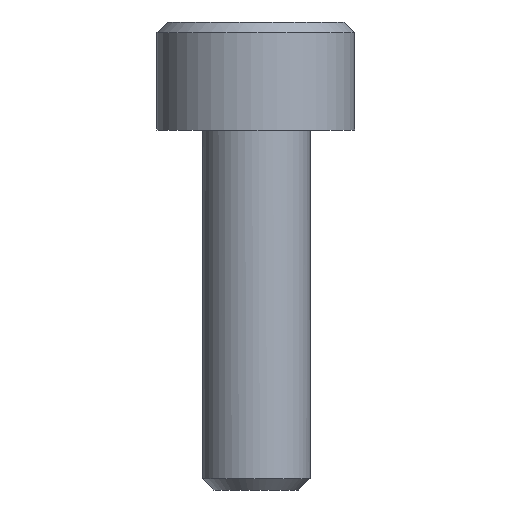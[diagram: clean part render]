
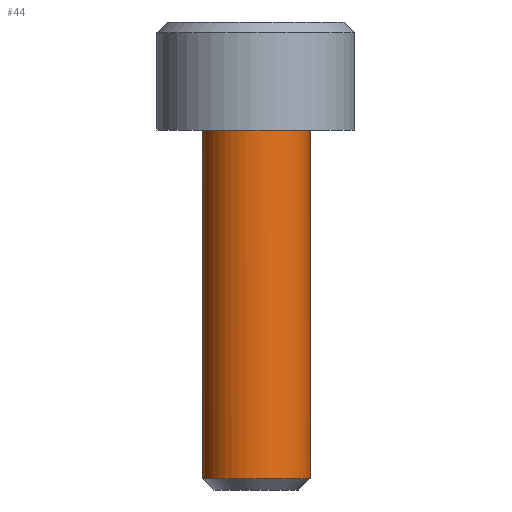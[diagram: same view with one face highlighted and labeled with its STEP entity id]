
A CAD part, front view. The second image highlights one B-rep face of the part: STEP entity #44.
In plain terms, the highlighted free-form (B-spline) face has degree [2, 1] with [9, 2] control points.
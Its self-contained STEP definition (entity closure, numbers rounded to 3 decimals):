
#44=ADVANCED_FACE('',(#69),#763,.T.);
#69=FACE_OUTER_BOUND('',#94,.T.);
#94=EDGE_LOOP('',(#127,#128,#129,#130));
#127=ORIENTED_EDGE('',*,*,#540,.T.);
#128=ORIENTED_EDGE('',*,*,#541,.T.);
#129=ORIENTED_EDGE('',*,*,#542,.T.);
#130=ORIENTED_EDGE('',*,*,#543,.T.);
#230=(
BOUNDED_CURVE()
B_SPLINE_CURVE(2,(#1137,#1138,#1139,#1140,#1141),.UNSPECIFIED.,.F.,.F.)
B_SPLINE_CURVE_WITH_KNOTS((3,2,3),(0.,2.356,4.712),
 .UNSPECIFIED.)
CURVE()
GEOMETRIC_REPRESENTATION_ITEM()
RATIONAL_B_SPLINE_CURVE((1.,0.707,1.,0.707,1.))
REPRESENTATION_ITEM('')
);
#231=(
BOUNDED_CURVE()
B_SPLINE_CURVE(2,(#1148,#1149,#1150,#1151,#1152),.UNSPECIFIED.,.F.,.F.)
B_SPLINE_CURVE_WITH_KNOTS((3,2,3),(-4.712,-2.356,0.),
 .UNSPECIFIED.)
CURVE()
GEOMETRIC_REPRESENTATION_ITEM()
RATIONAL_B_SPLINE_CURVE((1.,0.707,1.,0.707,1.))
REPRESENTATION_ITEM('')
);
#258=(
BOUNDED_CURVE()
B_SPLINE_CURVE(2,(#1441,#1442,#1443,#1444,#1445),.UNSPECIFIED.,.F.,.F.)
B_SPLINE_CURVE_WITH_KNOTS((3,2,3),(-4.712,-2.356,0.),
 .UNSPECIFIED.)
CURVE()
GEOMETRIC_REPRESENTATION_ITEM()
RATIONAL_B_SPLINE_CURVE((1.,0.707,1.,0.707,1.))
REPRESENTATION_ITEM('')
);
#271=PCURVE('',#763,#379);
#272=PCURVE('',#763,#380);
#273=PCURVE('',#763,#381);
#274=PCURVE('',#763,#382);
#278=PCURVE('',#764,#386);
#347=PCURVE('',#768,#455);
#349=PCURVE('',#768,#457);
#354=PCURVE('',#759,#462);
#379=DEFINITIONAL_REPRESENTATION('',(#600),#1499);
#380=DEFINITIONAL_REPRESENTATION('',(#601),#1499);
#381=DEFINITIONAL_REPRESENTATION('',(#603),#1499);
#382=DEFINITIONAL_REPRESENTATION('',(#604),#1499);
#386=DEFINITIONAL_REPRESENTATION('',(#610),#1499);
#455=DEFINITIONAL_REPRESENTATION('',(#695),#1499);
#457=DEFINITIONAL_REPRESENTATION('',(#697),#1499);
#462=DEFINITIONAL_REPRESENTATION('',(#258),#1499);
#486=SURFACE_CURVE('',#599,(#271,#347),.PCURVE_S1.);
#487=SURFACE_CURVE('',#230,(#272,#278),.PCURVE_S1.);
#488=SURFACE_CURVE('',#602,(#273,#349),.PCURVE_S1.);
#489=SURFACE_CURVE('',#231,(#274,#354),.PCURVE_S1.);
#540=EDGE_CURVE('',#719,#720,#486,.T.);
#541=EDGE_CURVE('',#720,#721,#487,.T.);
#542=EDGE_CURVE('',#721,#722,#488,.T.);
#543=EDGE_CURVE('',#722,#719,#489,.T.);
#599=B_SPLINE_CURVE_WITH_KNOTS('',1,(#1133,#1134),.UNSPECIFIED.,.F.,.F.,
(2,2),(-9.694,0.),.UNSPECIFIED.);
#600=B_SPLINE_CURVE_WITH_KNOTS('',1,(#1135,#1136),.UNSPECIFIED.,.F.,.F.,
(2,2),(-9.694,0.),.UNSPECIFIED.);
#601=B_SPLINE_CURVE_WITH_KNOTS('',1,(#1142,#1143),.UNSPECIFIED.,.F.,.F.,
(2,2),(0.,4.712),.UNSPECIFIED.);
#602=B_SPLINE_CURVE_WITH_KNOTS('',1,(#1144,#1145),.UNSPECIFIED.,.F.,.F.,
(2,2),(-9.694,0.),.UNSPECIFIED.);
#603=B_SPLINE_CURVE_WITH_KNOTS('',1,(#1146,#1147),.UNSPECIFIED.,.F.,.F.,
(2,2),(-9.694,0.),.UNSPECIFIED.);
#604=B_SPLINE_CURVE_WITH_KNOTS('',1,(#1153,#1154),.UNSPECIFIED.,.F.,.F.,
(2,2),(-4.712,0.),.UNSPECIFIED.);
#610=B_SPLINE_CURVE_WITH_KNOTS('',1,(#1170,#1171),.UNSPECIFIED.,.F.,.F.,
(2,2),(0.,4.712),.UNSPECIFIED.);
#695=B_SPLINE_CURVE_WITH_KNOTS('',1,(#1408,#1409),.UNSPECIFIED.,.F.,.F.,
(2,2),(-9.694,0.),.UNSPECIFIED.);
#697=B_SPLINE_CURVE_WITH_KNOTS('',1,(#1417,#1418),.UNSPECIFIED.,.F.,.F.,
(2,2),(-9.694,0.),.UNSPECIFIED.);
#719=VERTEX_POINT('',#1067);
#720=VERTEX_POINT('',#1068);
#721=VERTEX_POINT('',#1069);
#722=VERTEX_POINT('',#1070);
#759=PLANE('',#828);
#763=(
BOUNDED_SURFACE()
B_SPLINE_SURFACE(2,1,((#902,#903),(#904,#905),(#906,#907),(#908,#909),(#910,
#911),(#912,#913),(#914,#915),(#916,#917),(#918,#919)),.UNSPECIFIED.,.T.,
 .F.,.F.)
B_SPLINE_SURFACE_WITH_KNOTS((3,2,2,2,3),(2,2),(0.,1.571,3.142,
4.712,6.283),(0.,11.635),.UNSPECIFIED.)
GEOMETRIC_REPRESENTATION_ITEM()
RATIONAL_B_SPLINE_SURFACE(((1.,1.),(0.707,0.707),
(1.,1.),(0.707,0.707),(1.,1.),(0.707,
0.707),(1.,1.),(0.707,0.707),(1.,1.)))
REPRESENTATION_ITEM('')
SURFACE()
);
#764=(
BOUNDED_SURFACE()
B_SPLINE_SURFACE(2,1,((#920,#921),(#922,#923),(#924,#925),(#926,#927),(#928,
#929),(#930,#931),(#932,#933),(#934,#935),(#936,#937)),.UNSPECIFIED.,.T.,
 .F.,.F.)
B_SPLINE_SURFACE_WITH_KNOTS((3,2,2,2,3),(2,2),(0.,1.571,3.142,
4.712,6.283),(0.,2.335),.UNSPECIFIED.)
GEOMETRIC_REPRESENTATION_ITEM()
RATIONAL_B_SPLINE_SURFACE(((1.,1.),(0.707,0.707),
(1.,1.),(0.707,0.707),(1.,1.),(0.707,
0.707),(1.,1.),(0.707,0.707),(1.,1.)))
REPRESENTATION_ITEM('')
SURFACE()
);
#768=(
BOUNDED_SURFACE()
B_SPLINE_SURFACE(2,1,((#1005,#1006),(#1007,#1008),(#1009,#1010),(#1011,#1012),
(#1013,#1014),(#1015,#1016),(#1017,#1018),(#1019,#1020),(#1021,#1022)),
 .UNSPECIFIED.,.T.,.F.,.F.)
B_SPLINE_SURFACE_WITH_KNOTS((3,2,2,2,3),(2,2),(0.,1.571,3.142,
4.712,6.283),(0.,11.635),.UNSPECIFIED.)
GEOMETRIC_REPRESENTATION_ITEM()
RATIONAL_B_SPLINE_SURFACE(((1.,1.),(0.707,0.707),
(1.,1.),(0.707,0.707),(1.,1.),(0.707,
0.707),(1.,1.),(0.707,0.707),(1.,1.)))
REPRESENTATION_ITEM('')
SURFACE()
);
#828=AXIS2_PLACEMENT_3D('',#1023,#852,$);
#852=DIRECTION('',(1.,0.,0.));
#902=CARTESIAN_POINT('',(-0.971,1.5,0.));
#903=CARTESIAN_POINT('',(10.664,1.5,0.));
#904=CARTESIAN_POINT('',(-0.971,1.5,1.5));
#905=CARTESIAN_POINT('',(10.664,1.5,1.5));
#906=CARTESIAN_POINT('',(-0.971,0.,1.5));
#907=CARTESIAN_POINT('',(10.664,0.,1.5));
#908=CARTESIAN_POINT('',(-0.971,-1.5,1.5));
#909=CARTESIAN_POINT('',(10.664,-1.5,1.5));
#910=CARTESIAN_POINT('',(-0.971,-1.5,0.));
#911=CARTESIAN_POINT('',(10.664,-1.5,0.));
#912=CARTESIAN_POINT('',(-0.971,-1.5,-1.5));
#913=CARTESIAN_POINT('',(10.664,-1.5,-1.5));
#914=CARTESIAN_POINT('',(-0.971,0.,-1.5));
#915=CARTESIAN_POINT('',(10.664,0.,-1.5));
#916=CARTESIAN_POINT('',(-0.971,1.5,-1.5));
#917=CARTESIAN_POINT('',(10.664,1.5,-1.5));
#918=CARTESIAN_POINT('',(-0.971,1.5,0.));
#919=CARTESIAN_POINT('',(10.664,1.5,0.));
#920=CARTESIAN_POINT('',(11.194,0.,0.));
#921=CARTESIAN_POINT('',(9.542,1.651,0.));
#922=CARTESIAN_POINT('',(11.194,0.,0.));
#923=CARTESIAN_POINT('',(9.542,1.651,-1.651));
#924=CARTESIAN_POINT('',(11.194,0.,0.));
#925=CARTESIAN_POINT('',(9.542,0.,-1.651));
#926=CARTESIAN_POINT('',(11.194,0.,0.));
#927=CARTESIAN_POINT('',(9.542,-1.651,-1.651));
#928=CARTESIAN_POINT('',(11.194,0.,0.));
#929=CARTESIAN_POINT('',(9.542,-1.651,0.));
#930=CARTESIAN_POINT('',(11.194,0.,0.));
#931=CARTESIAN_POINT('',(9.542,-1.651,1.651));
#932=CARTESIAN_POINT('',(11.194,0.,0.));
#933=CARTESIAN_POINT('',(9.542,0.,1.651));
#934=CARTESIAN_POINT('',(11.194,0.,0.));
#935=CARTESIAN_POINT('',(9.542,1.651,1.651));
#936=CARTESIAN_POINT('',(11.194,0.,0.));
#937=CARTESIAN_POINT('',(9.542,1.651,0.));
#1005=CARTESIAN_POINT('',(-0.971,-1.5,0.));
#1006=CARTESIAN_POINT('',(10.664,-1.5,0.));
#1007=CARTESIAN_POINT('',(-0.971,-1.5,-1.5));
#1008=CARTESIAN_POINT('',(10.664,-1.5,-1.5));
#1009=CARTESIAN_POINT('',(-0.971,0.,-1.5));
#1010=CARTESIAN_POINT('',(10.664,0.,-1.5));
#1011=CARTESIAN_POINT('',(-0.971,1.5,-1.5));
#1012=CARTESIAN_POINT('',(10.664,1.5,-1.5));
#1013=CARTESIAN_POINT('',(-0.971,1.5,0.));
#1014=CARTESIAN_POINT('',(10.664,1.5,0.));
#1015=CARTESIAN_POINT('',(-0.971,1.5,1.5));
#1016=CARTESIAN_POINT('',(10.664,1.5,1.5));
#1017=CARTESIAN_POINT('',(-0.971,0.,1.5));
#1018=CARTESIAN_POINT('',(10.664,0.,1.5));
#1019=CARTESIAN_POINT('',(-0.971,-1.5,1.5));
#1020=CARTESIAN_POINT('',(10.664,-1.5,1.5));
#1021=CARTESIAN_POINT('',(-0.971,-1.5,0.));
#1022=CARTESIAN_POINT('',(10.664,-1.5,0.));
#1023=CARTESIAN_POINT('',(0.,3.301,-3.301));
#1067=CARTESIAN_POINT('',(0.,0.,-1.5));
#1068=CARTESIAN_POINT('',(9.694,0.,-1.5));
#1069=CARTESIAN_POINT('',(9.694,0.,1.5));
#1070=CARTESIAN_POINT('',(0.,0.,1.5));
#1133=CARTESIAN_POINT('',(0.,0.,-1.5));
#1134=CARTESIAN_POINT('',(9.694,0.,-1.5));
#1135=CARTESIAN_POINT('',(4.712,0.971));
#1136=CARTESIAN_POINT('',(4.712,10.664));
#1137=CARTESIAN_POINT('',(9.694,0.,-1.5));
#1138=CARTESIAN_POINT('',(9.694,-1.5,-1.5));
#1139=CARTESIAN_POINT('',(9.694,-1.5,0.));
#1140=CARTESIAN_POINT('',(9.694,-1.5,1.5));
#1141=CARTESIAN_POINT('',(9.694,0.,1.5));
#1142=CARTESIAN_POINT('',(4.712,10.664));
#1143=CARTESIAN_POINT('',(1.571,10.664));
#1144=CARTESIAN_POINT('',(9.694,0.,1.5));
#1145=CARTESIAN_POINT('',(0.,0.,1.5));
#1146=CARTESIAN_POINT('',(1.571,10.664));
#1147=CARTESIAN_POINT('',(1.571,0.971));
#1148=CARTESIAN_POINT('',(0.,0.,1.5));
#1149=CARTESIAN_POINT('',(0.,-1.5,1.5));
#1150=CARTESIAN_POINT('',(0.,-1.5,0.));
#1151=CARTESIAN_POINT('',(0.,-1.5,-1.5));
#1152=CARTESIAN_POINT('',(0.,0.,-1.5));
#1153=CARTESIAN_POINT('',(1.571,0.971));
#1154=CARTESIAN_POINT('',(4.712,0.971));
#1170=CARTESIAN_POINT('',(1.571,2.121));
#1171=CARTESIAN_POINT('',(4.712,2.121));
#1408=CARTESIAN_POINT('',(1.571,0.971));
#1409=CARTESIAN_POINT('',(1.571,10.664));
#1417=CARTESIAN_POINT('',(4.712,10.664));
#1418=CARTESIAN_POINT('',(4.712,0.971));
#1441=CARTESIAN_POINT('',(3.625,0.));
#1442=CARTESIAN_POINT('',(3.625,1.5));
#1443=CARTESIAN_POINT('',(2.125,1.5));
#1444=CARTESIAN_POINT('',(0.625,1.5));
#1445=CARTESIAN_POINT('',(0.625,0.));
#1499=(
GEOMETRIC_REPRESENTATION_CONTEXT(2)
PARAMETRIC_REPRESENTATION_CONTEXT()
REPRESENTATION_CONTEXT('pspace','')
);
